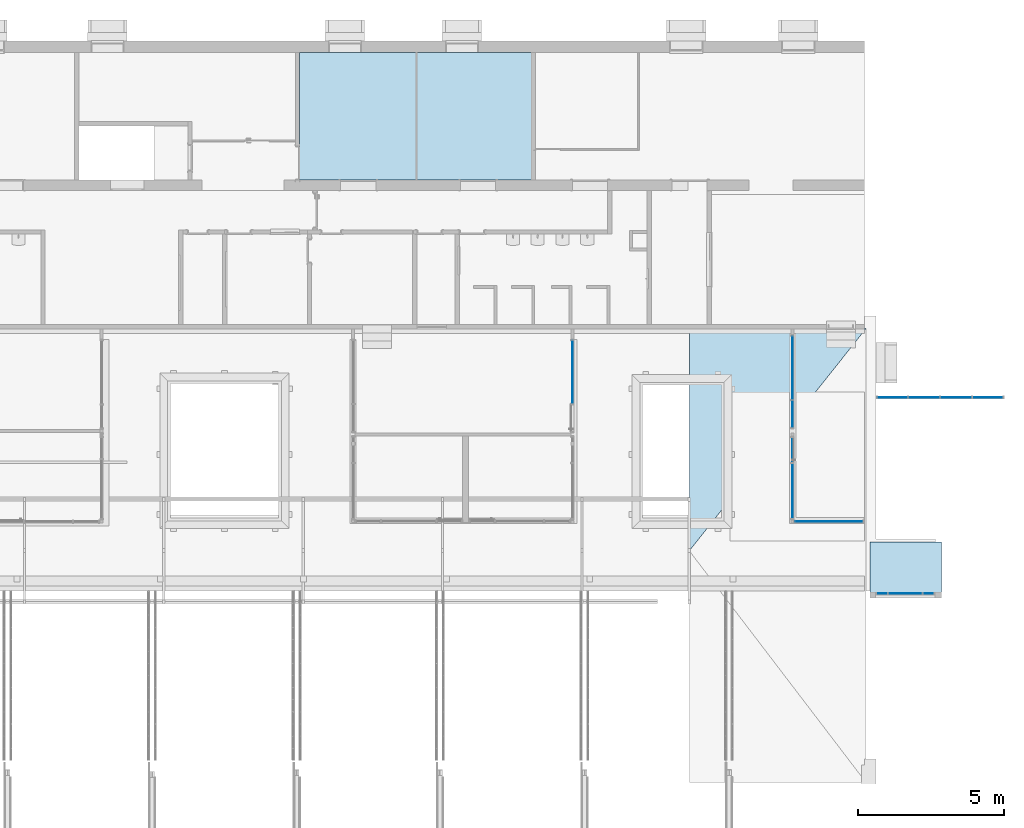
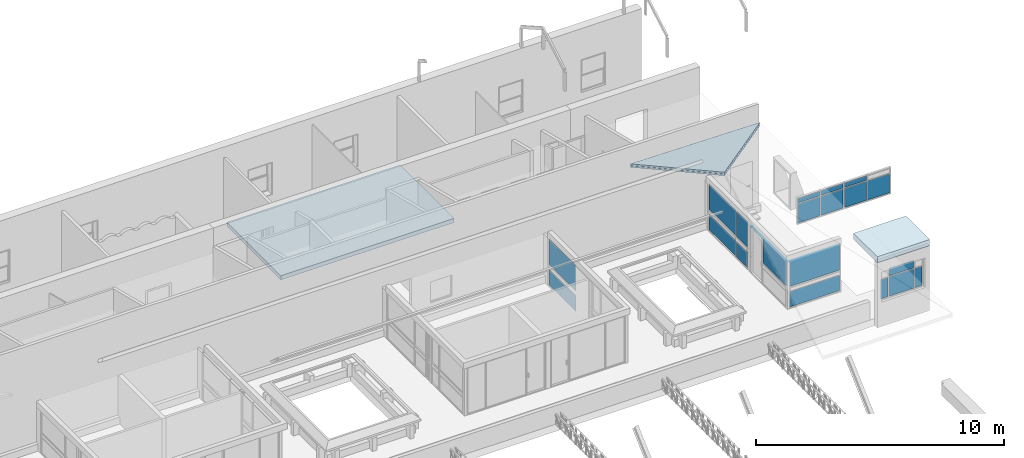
# One storey, part 105 of 153: 22 plates, 3 slabs, 8 elements without a shape of their own.
"""IFC4 building model written with IfcOpenShell, lengths in metres."""

from ifc_helpers import new_model, entity, si_unit, converted_unit, derived_unit, direction, frame, origin, place, context, subcontext, project, spatial, indexed_curve, outline, extrude, source, transform, mapped, material, constituent, constituent_set, type_object, type_shapes, element, aggregate, save


model = new_model("IFC4")

# Units and contexts
model_context = context("Model", 3, precision=1e-05, world=origin(), true_north=direction((6.123031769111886e-17, 1.0)))
body_context = subcontext(model_context, "Body", "Model", "MODEL_VIEW")
ifc_project = project(units=[si_unit("LENGTHUNIT", "METRE"), si_unit("AREAUNIT", "SQUARE_METRE"), si_unit("VOLUMEUNIT", "CUBIC_METRE"), converted_unit("PLANEANGLEUNIT", "DEGREE", entity("IfcRatioMeasure", 0.017453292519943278), si_unit("PLANEANGLEUNIT", "RADIAN"), dimensions=[0, 0, 0, 0, 0, 0, 0]), si_unit("MASSUNIT", "GRAM", prefix="KILO"), derived_unit("MASSDENSITYUNIT", [(si_unit("MASSUNIT", "GRAM", prefix="KILO"), 1), (si_unit("LENGTHUNIT", "METRE"), -3)]), derived_unit("MOMENTOFINERTIAUNIT", [(si_unit("LENGTHUNIT", "METRE"), 4)]), si_unit("TIMEUNIT", "SECOND"), si_unit("FREQUENCYUNIT", "HERTZ"), si_unit("THERMODYNAMICTEMPERATUREUNIT", "DEGREE_CELSIUS"), derived_unit("THERMALTRANSMITTANCEUNIT", [(si_unit("MASSUNIT", "GRAM", prefix="KILO"), 1), (si_unit("THERMODYNAMICTEMPERATUREUNIT", "KELVIN"), -1), (si_unit("TIMEUNIT", "SECOND"), -3)]), derived_unit("VOLUMETRICFLOWRATEUNIT", [(si_unit("LENGTHUNIT", "METRE"), 3), (si_unit("TIMEUNIT", "SECOND"), -1)]), derived_unit("MASSFLOWRATEUNIT", [(si_unit("MASSUNIT", "GRAM", prefix="KILO"), 1), (si_unit("TIMEUNIT", "SECOND"), -1)]), derived_unit("ROTATIONALFREQUENCYUNIT", [(si_unit("TIMEUNIT", "SECOND"), -1)]), si_unit("ELECTRICCURRENTUNIT", "AMPERE"), si_unit("ELECTRICVOLTAGEUNIT", "VOLT"), si_unit("POWERUNIT", "WATT"), si_unit("FORCEUNIT", "NEWTON", prefix="KILO"), si_unit("ILLUMINANCEUNIT", "LUX"), si_unit("LUMINOUSFLUXUNIT", "LUMEN"), si_unit("LUMINOUSINTENSITYUNIT", "CANDELA"), derived_unit("USERDEFINED", [(si_unit("MASSUNIT", "GRAM", prefix="KILO"), -1), (si_unit("LENGTHUNIT", "METRE"), -2), (si_unit("TIMEUNIT", "SECOND"), 3), (si_unit("LUMINOUSFLUXUNIT", "LUMEN"), 1)]), derived_unit("SOUNDPOWERUNIT", [(si_unit("MASSUNIT", "GRAM", prefix="KILO"), 1), (si_unit("LENGTHUNIT", "METRE"), 2), (si_unit("TIMEUNIT", "SECOND"), -3)]), derived_unit("SOUNDPRESSUREUNIT", [(si_unit("MASSUNIT", "GRAM", prefix="KILO"), 1), (si_unit("LENGTHUNIT", "METRE"), -1), (si_unit("TIMEUNIT", "SECOND"), -2)]), derived_unit("LINEARVELOCITYUNIT", [(si_unit("LENGTHUNIT", "METRE"), 1), (si_unit("TIMEUNIT", "SECOND"), -1)]), si_unit("PRESSUREUNIT", "PASCAL"), derived_unit("USERDEFINED", [(si_unit("LENGTHUNIT", "METRE"), -2), (si_unit("MASSUNIT", "GRAM", prefix="KILO"), 1), (si_unit("TIMEUNIT", "SECOND"), -2)]), derived_unit("LINEARFORCEUNIT", [(si_unit("MASSUNIT", "GRAM", prefix="KILO"), 1), (si_unit("LENGTHUNIT", "METRE"), 1), (si_unit("TIMEUNIT", "SECOND"), -2), (si_unit("LENGTHUNIT", "METRE"), -1)]), derived_unit("PLANARFORCEUNIT", [(si_unit("MASSUNIT", "GRAM", prefix="KILO"), 1), (si_unit("LENGTHUNIT", "METRE"), 1), (si_unit("TIMEUNIT", "SECOND"), -2), (si_unit("LENGTHUNIT", "METRE"), -2)])], contexts=[model_context])

# Site, building, storey
site_placement = place(None, origin())
site = spatial("IfcSite", under=ifc_project, at=site_placement, Name="Superficie", CompositionType="ELEMENT")
building_placement = place(site_placement, origin())
building = spatial("IfcBuilding", under=site, at=building_placement, CompositionType="ELEMENT")
storey_placement = place(building_placement, frame((0.0, 0.0, 3.5999999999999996)))
storey = spatial("IfcBuildingStorey", under=building, at=storey_placement, Name="Nivel 1", CompositionType="ELEMENT", Elevation=3.5999999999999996)

# Roof, slab
roof_1_placement = place(storey_placement, frame((20.78679901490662, -3.5841708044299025, 2.8999999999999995)))
roof_1 = element("IfcRoof", 1, at=roof_1_placement, inside=storey, Name="Cubierta básica:Plana tradicional transitable - 30 cm 2", ObjectType="Cubierta básica:Plana tradicional transitable - 30 cm 2", PredefinedType="NOTDEFINED")
ifc_material_1 = material(Name="Cerámica blanca", Category="Cerámica")
ifc_constituent_1 = constituent(ifc_material_1, Name="Cerámica blanca", Category="Cerámica")
ifc_material_2 = material(Name="Hormigón y arena", Category="Hormigón")
ifc_constituent_2 = constituent(ifc_material_2, Name="Hormigón y arena", Category="Hormigón")
ifc_material_3 = material(Name="Aislamiento térmico", Category="Varios")
ifc_constituent_3 = constituent(ifc_material_3, Name="Aislamiento térmico", Category="Varios")
ifc_material_4 = material(Name="Hormigón", Category="Hormigón")
ifc_constituent_4 = constituent(ifc_material_4, Name="Hormigón", Category="Hormigón")
ifc_constituent_set_1 = constituent_set(constituents=[ifc_constituent_1, ifc_constituent_2, ifc_constituent_3, ifc_constituent_4], Name="Cubierta básica:Plana tradicional transitable - 30 cm 2")
slab_type_1 = type_object("IfcSlabType", Name="Cubierta básica:Plana tradicional transitable - 30 cm 2", PredefinedType="ROOF")
slab_1_placement = place(roof_1_placement, origin())
slab_1 = element("IfcSlab", 2, at=slab_1_placement, type_object=slab_type_1, material=ifc_constituent_set_1, Name="Cubierta básica:Plana tradicional transitable - 30 cm 2", ObjectType="Cubierta básica:Plana tradicional transitable - 30 cm 2", PredefinedType="ROOF", context=body_context, shape_type="SweptSolid", body=[
    extrude(outline(indexed_curve([(1.2174999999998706, 0.9599999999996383), (-1.2174999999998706, 0.9599999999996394), (-1.2174999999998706, -0.9599999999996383), (1.2174999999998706, -0.9599999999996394), (1.2174999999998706, 0.9599999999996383)], self_intersect=False)), frame((1.2174999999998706, 0.9599999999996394, 0.0)), (0.0, 0.0, 1.0), 0.02),
    extrude(outline(indexed_curve([(1.2174999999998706, 0.9599999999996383), (-1.2174999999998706, 0.9599999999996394), (-1.2174999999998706, -0.9599999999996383), (1.2174999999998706, -0.9599999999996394), (1.2174999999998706, 0.9599999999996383)], self_intersect=False)), frame((1.2174999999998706, 0.9599999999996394, 0.019999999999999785)), (0.0, 0.0, 1.0), 0.08),
    extrude(outline(indexed_curve([(1.2174999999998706, 0.9599999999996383), (-1.2174999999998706, 0.9599999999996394), (-1.2174999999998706, -0.9599999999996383), (1.2174999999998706, -0.9599999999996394), (1.2174999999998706, 0.9599999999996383)], self_intersect=False)), frame((1.2174999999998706, 0.9599999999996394, 0.1)), (0.0, 0.0, 1.0), 0.08),
    extrude(outline(indexed_curve([(1.2174999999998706, 0.9599999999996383), (-1.2174999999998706, 0.9599999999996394), (-1.2174999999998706, -0.9599999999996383), (1.2174999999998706, -0.9599999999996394), (1.2174999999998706, 0.9599999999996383)], self_intersect=False)), frame((1.2174999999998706, 0.9599999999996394, 0.18000000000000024)), (0.0, 0.0, 1.0), 0.12),
])
aggregate(roof_1, [slab_1])

# Curtain wall, plates
curtain_wall_type = type_object("IfcCurtainWallType", Name="Muro cortina:Muro cortina - simple", PredefinedType="NOTDEFINED")
curtain_wall_1_placement = place(storey_placement, frame((0.0, 0.0, -3.5999999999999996)))
curtain_wall_1 = element("IfcCurtainWall", 3, at=curtain_wall_1_placement, inside=storey, type_object=curtain_wall_type, Name="Muro cortina:Muro cortina - simple", ObjectType="Muro cortina:Muro cortina - simple", PredefinedType="NOTDEFINED")
ifc_material_5 = material(Name="Cristal", Category="Vidrio")
plate_type_1 = type_object("IfcPlateType", Name="Panel de sistema:Acristalado", PredefinedType="CURTAIN_PANEL", material=ifc_material_5)
shared_shape_1 = source(origin(), body_context, "Body", "SweptSolid", [
    extrude(outline(indexed_curve([(-0.01, -0.17499999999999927), (0.01, -0.17499999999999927), (0.01, 0.17499999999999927), (-0.01, 0.17499999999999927), (-0.01, -0.17499999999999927)], self_intersect=False)), frame((0.0, 0.0, 0.0), z_axis=(0.0, 0.0, 1.0), x_axis=(0.0, 1.0, 0.0)), (0.0, 0.0, 1.0), 0.9463856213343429),
])
type_shapes(plate_type_1, [shared_shape_1])
plate_1_placement = place(curtain_wall_1_placement, frame((22.78100195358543, -3.424170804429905, 4.545), z_axis=(0.0, 0.0, 1.0), x_axis=(-1.0, 0.0, 0.0)))
plate_1 = element("IfcPlate", 4, at=plate_1_placement, type_object=plate_type_1, material=ifc_material_5, Name="Panel de sistema:Acristalado", ObjectType="Panel de sistema:Acristalado", PredefinedType="CURTAIN_PANEL", context=body_context, shape_type="MappedRepresentation", body=[
    mapped(shared_shape_1, transform((0.0, 0.0, 0.0), scale=1.0)),
])
plate_2_placement = place(curtain_wall_1_placement, frame((21.196001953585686, -3.4241708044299, 4.545), z_axis=(0.0, 0.0, 1.0), x_axis=(-1.0, 0.0, 0.0)))
plate_2 = element("IfcPlate", 5, at=plate_2_placement, type_object=plate_type_1, material=ifc_material_5, Name="Panel de sistema:Acristalado", ObjectType="Panel de sistema:Acristalado", PredefinedType="CURTAIN_PANEL", context=body_context, shape_type="MappedRepresentation", body=[
    mapped(shared_shape_1, transform((0.0, 0.0, 0.0), scale=1.0)),
])
plate_type_2 = type_object("IfcPlateType", Name="Panel de sistema:Acristalado", PredefinedType="CURTAIN_PANEL", material=ifc_material_5)
shared_shape_2 = source(origin(), body_context, "Body", "SweptSolid", [
    extrude(outline(indexed_curve([(-0.01, -0.5674999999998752), (0.01, -0.5674999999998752), (0.01, 0.5674999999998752), (-0.01, 0.5674999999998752), (-0.01, -0.5674999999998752)], self_intersect=False)), frame((0.0, 0.0, 0.0), z_axis=(0.0, 0.0, 1.0), x_axis=(0.0, 1.0, 0.0)), (0.0, 0.0, 1.0), 0.9463856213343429),
])
type_shapes(plate_type_2, [shared_shape_2])
plate_3_placement = place(curtain_wall_1_placement, frame((21.98850195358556, -3.424170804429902, 4.545), z_axis=(0.0, 0.0, 1.0), x_axis=(-1.0, 0.0, 0.0)))
plate_3 = element("IfcPlate", 6, at=plate_3_placement, type_object=plate_type_2, material=ifc_material_5, Name="Panel de sistema:Acristalado", ObjectType="Panel de sistema:Acristalado", PredefinedType="CURTAIN_PANEL", context=body_context, shape_type="MappedRepresentation", body=[
    mapped(shared_shape_2, transform((0.0, 0.0, 0.0), scale=1.0)),
])
plate_type_3 = type_object("IfcPlateType", Name="Panel de sistema:Acristalado", PredefinedType="CURTAIN_PANEL", material=ifc_material_5)
shared_shape_3 = source(origin(), body_context, "Body", "SweptSolid", [
    extrude(outline(indexed_curve([(-0.01, -0.5674999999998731), (0.01, -0.5674999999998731), (0.01, 0.5674999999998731), (-0.01, 0.5674999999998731), (-0.01, -0.5674999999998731)], self_intersect=False)), frame((0.0, 0.0, 0.0), z_axis=(0.0, 0.0, 1.0), x_axis=(0.0, 1.0, 0.0)), (0.0, 0.0, 1.0), 0.3750000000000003),
])
type_shapes(plate_type_3, [shared_shape_3])
plate_4_placement = place(curtain_wall_1_placement, frame((21.98850195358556, -3.424170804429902, 5.541385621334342), z_axis=(0.0, 0.0, 1.0), x_axis=(-1.0, 0.0, 0.0)))
plate_4 = element("IfcPlate", 7, at=plate_4_placement, type_object=plate_type_3, material=ifc_material_5, Name="Panel de sistema:Acristalado", ObjectType="Panel de sistema:Acristalado", PredefinedType="CURTAIN_PANEL", context=body_context, shape_type="MappedRepresentation", body=[
    mapped(shared_shape_3, transform((0.0, 0.0, 0.0), scale=1.0)),
])
aggregate(curtain_wall_1, [plate_1, plate_3, plate_2, plate_4])

curtain_wall_2_placement = place(storey_placement, frame((0.0, 0.0, -3.5999999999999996)))
curtain_wall_2 = element("IfcCurtainWall", 8, at=curtain_wall_2_placement, inside=storey, type_object=curtain_wall_type, Name="Muro cortina:Muro cortina - simple", ObjectType="Muro cortina:Muro cortina - simple", PredefinedType="NOTDEFINED")
plate_type_4 = type_object("IfcPlateType", Name="Panel de sistema:Acristalado", PredefinedType="CURTAIN_PANEL", material=ifc_material_5)
shared_shape_4 = source(origin(), body_context, "Body", "SweptSolid", [
    extrude(outline(indexed_curve([(-0.01, -1.1475000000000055), (0.01, -1.1475000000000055), (0.01, 1.1475000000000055), (-0.01, 1.1475000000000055), (-0.01, -1.1475000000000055)], self_intersect=False)), frame((0.0, 0.0, 0.0), z_axis=(0.0, 0.0, 1.0), x_axis=(0.0, 1.0, 0.0)), (0.0, 0.0, 1.0), 0.7600000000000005),
])
type_shapes(plate_type_4, [shared_shape_4])
plate_5_placement = place(curtain_wall_2_placement, frame((19.374299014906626, -0.963606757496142, 3.6449999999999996)))
plate_5 = element("IfcPlate", 9, at=plate_5_placement, type_object=plate_type_4, material=ifc_material_5, Name="Panel de sistema:Acristalado", ObjectType="Panel de sistema:Acristalado", PredefinedType="CURTAIN_PANEL", context=body_context, shape_type="MappedRepresentation", body=[
    mapped(shared_shape_4, transform((0.0, 0.0, 0.0), scale=1.0)),
])
plate_type_5 = type_object("IfcPlateType", Name="Panel de sistema:Acristalado", PredefinedType="CURTAIN_PANEL", material=ifc_material_5)
shared_shape_5 = source(origin(), body_context, "Body", "SweptSolid", [
    extrude(outline(indexed_curve([(-0.01, -1.1475000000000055), (0.01, -1.1475000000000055), (0.01, 1.1475000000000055), (-0.01, 1.1475000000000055), (-0.01, -1.1475000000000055)], self_intersect=False)), frame((0.0, 0.0, 0.0), z_axis=(0.0, 0.0, 1.0), x_axis=(0.0, 1.0, 0.0)), (0.0, 0.0, 1.0), 1.2249999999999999),
])
type_shapes(plate_type_5, [shared_shape_5])
plate_6_placement = place(curtain_wall_2_placement, frame((19.374299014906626, -0.963606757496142, 4.654999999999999)))
plate_6 = element("IfcPlate", 10, at=plate_6_placement, type_object=plate_type_5, material=ifc_material_5, Name="Panel de sistema:Acristalado", ObjectType="Panel de sistema:Acristalado", PredefinedType="CURTAIN_PANEL", context=body_context, shape_type="MappedRepresentation", body=[
    mapped(shared_shape_5, transform((0.0, 0.0, 0.0), scale=1.0)),
])
plate_type_6 = type_object("IfcPlateType", Name="Panel de sistema:Acristalado", PredefinedType="CURTAIN_PANEL", material=ifc_material_5)
shared_shape_6 = source(origin(), body_context, "Body", "SweptSolid", [
    extrude(outline(indexed_curve([(-0.01, -1.1475000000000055), (0.01, -1.1475000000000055), (0.01, 1.1475000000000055), (-0.01, 1.1475000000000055), (-0.01, -1.1475000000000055)], self_intersect=False)), frame((0.0, 0.0, 0.0), z_axis=(0.0, 0.0, 1.0), x_axis=(0.0, 1.0, 0.0)), (0.0, 0.0, 1.0), 0.019999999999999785),
])
type_shapes(plate_type_6, [shared_shape_6])
plate_7_placement = place(curtain_wall_2_placement, frame((19.374299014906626, -0.963606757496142, 5.879999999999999)))
plate_7 = element("IfcPlate", 11, at=plate_7_placement, type_object=plate_type_6, material=ifc_material_5, Name="Panel de sistema:Acristalado", ObjectType="Panel de sistema:Acristalado", PredefinedType="CURTAIN_PANEL", context=body_context, shape_type="MappedRepresentation", body=[
    mapped(shared_shape_6, transform((0.0, 0.0, 0.0), scale=1.0)),
])
aggregate(curtain_wall_2, [plate_5, plate_6, plate_7])

curtain_wall_3_placement = place(storey_placement, frame((0.0, 0.0, -3.5999999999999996)))
curtain_wall_3 = element("IfcCurtainWall", 12, at=curtain_wall_3_placement, inside=storey, type_object=curtain_wall_type, Name="Muro cortina:Muro cortina - simple", ObjectType="Muro cortina:Muro cortina - simple", PredefinedType="NOTDEFINED")
plate_type_7 = type_object("IfcPlateType", Name="Panel de sistema:Acristalado", PredefinedType="CURTAIN_PANEL", material=ifc_material_5)
shared_shape_7 = source(origin(), body_context, "Body", "SweptSolid", [
    extrude(outline(indexed_curve([(-0.01, -0.9475000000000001), (0.01, -0.9475000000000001), (0.01, 0.9475000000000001), (-0.01, 0.9475000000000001), (-0.01, -0.9475000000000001)], self_intersect=False)), frame((0.0, 0.0, 0.0), z_axis=(0.0, 0.0, 1.0), x_axis=(0.0, 1.0, 0.0)), (0.0, 0.0, 1.0), 1.2249999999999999),
])
type_shapes(plate_type_7, [shared_shape_7])
plate_8_placement = place(curtain_wall_3_placement, frame((18.12679901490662, 0.06273284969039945, 4.654999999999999), z_axis=(0.0, 0.0, 1.0), x_axis=(0.0, 1.0, 0.0)))
plate_8 = element("IfcPlate", 13, at=plate_8_placement, type_object=plate_type_7, material=ifc_material_5, Name="Panel de sistema:Acristalado", ObjectType="Panel de sistema:Acristalado", PredefinedType="CURTAIN_PANEL", context=body_context, shape_type="MappedRepresentation", body=[
    mapped(shared_shape_7, transform((0.0, 0.0, 0.0), scale=1.0)),
])
plate_type_8 = type_object("IfcPlateType", Name="Panel de sistema:Acristalado", PredefinedType="CURTAIN_PANEL", material=ifc_material_5)
shared_shape_8 = source(origin(), body_context, "Body", "SweptSolid", [
    extrude(outline(indexed_curve([(-0.009999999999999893, -1.5716666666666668), (0.009999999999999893, -1.5716666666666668), (0.009999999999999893, 0.3483333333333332), (0.009999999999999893, 1.2233333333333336), (-0.009999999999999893, 1.2233333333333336), (-0.009999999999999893, 0.3483333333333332), (-0.009999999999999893, -1.5716666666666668)], self_intersect=False)), frame((0.1741666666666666, -0.01, 0.009999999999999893), z_axis=(0.0, 1.0, 0.0), x_axis=(0.0, 0.0, 1.0)), (0.0, 0.0, 1.0), 0.02),
])
type_shapes(plate_type_8, [shared_shape_8])
plate_9_placement = place(curtain_wall_3_placement, frame((18.12679901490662, 0.5127328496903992, 5.879999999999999), z_axis=(0.0, 0.0, 1.0), x_axis=(0.0, 1.0, 0.0)))
plate_9 = element("IfcPlate", 14, at=plate_9_placement, type_object=plate_type_8, material=ifc_material_5, Name="Panel de sistema:Acristalado", ObjectType="Panel de sistema:Acristalado", PredefinedType="CURTAIN_PANEL", context=body_context, shape_type="MappedRepresentation", body=[
    mapped(shared_shape_8, transform((0.0, 0.0, 0.0), scale=1.0)),
])
aggregate(curtain_wall_3, [plate_8, plate_9])

curtain_wall_4_placement = place(storey_placement, frame((0.0, 0.0, -3.5999999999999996)))
curtain_wall_4 = element("IfcCurtainWall", 15, at=curtain_wall_4_placement, inside=storey, type_object=curtain_wall_type, Name="Muro cortina:Muro cortina - simple", ObjectType="Muro cortina:Muro cortina - simple", PredefinedType="NOTDEFINED")
plate_type_9 = type_object("IfcPlateType", Name="Panel de sistema:Acristalado", PredefinedType="CURTAIN_PANEL", material=ifc_material_5)
shared_shape_9 = source(origin(), body_context, "Body", "SweptSolid", [
    extrude(outline(indexed_curve([(-0.01, -0.45499999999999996), (0.01, -0.45499999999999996), (0.01, 0.45499999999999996), (-0.01, 0.45499999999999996), (-0.01, -0.45499999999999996)], self_intersect=False)), frame((0.0, 0.0, 0.0), z_axis=(0.0, 0.0, 1.0), x_axis=(0.0, 1.0, 0.0)), (0.0, 0.0, 1.0), 0.7600000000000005),
])
type_shapes(plate_type_9, [shared_shape_9])
plate_10_placement = place(curtain_wall_4_placement, frame((18.126799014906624, 2.715232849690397, 3.6449999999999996), z_axis=(0.0, 0.0, 1.0), x_axis=(0.0, 1.0, 0.0)))
plate_10 = element("IfcPlate", 16, at=plate_10_placement, type_object=plate_type_9, material=ifc_material_5, Name="Panel de sistema:Acristalado", ObjectType="Panel de sistema:Acristalado", PredefinedType="CURTAIN_PANEL", context=body_context, shape_type="MappedRepresentation", body=[
    mapped(shared_shape_9, transform((0.0, 0.0, 0.0), scale=1.0)),
])
plate_type_10 = type_object("IfcPlateType", Name="Panel de sistema:Acristalado", PredefinedType="CURTAIN_PANEL", material=ifc_material_5)
shared_shape_10 = source(origin(), body_context, "Body", "SweptSolid", [
    extrude(outline(indexed_curve([(-0.01, -1.0780801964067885), (0.01, -1.0780801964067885), (0.01, 1.0780801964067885), (-0.01, 1.0780801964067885), (-0.01, -1.0780801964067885)], self_intersect=False)), frame((0.0, 0.0, 0.0), z_axis=(0.0, 0.0, 1.0), x_axis=(0.0, 1.0, 0.0)), (0.0, 0.0, 1.0), 0.7600000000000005),
])
type_shapes(plate_type_10, [shared_shape_10])
plate_11_placement = place(curtain_wall_4_placement, frame((18.126799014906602, 4.298313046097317, 3.6449999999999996), z_axis=(0.0, 0.0, 1.0), x_axis=(0.0, 1.0, 0.0)))
plate_11 = element("IfcPlate", 17, at=plate_11_placement, type_object=plate_type_10, material=ifc_material_5, Name="Panel de sistema:Acristalado", ObjectType="Panel de sistema:Acristalado", PredefinedType="CURTAIN_PANEL", context=body_context, shape_type="MappedRepresentation", body=[
    mapped(shared_shape_10, transform((0.0, 0.0, 0.0), scale=1.0)),
])
plate_type_11 = type_object("IfcPlateType", Name="Panel de sistema:Acristalado", PredefinedType="CURTAIN_PANEL", material=ifc_material_5)
shared_shape_11 = source(origin(), body_context, "Body", "SweptSolid", [
    extrude(outline(indexed_curve([(-0.01, -0.45499999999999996), (0.01, -0.45499999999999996), (0.01, 0.45499999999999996), (-0.01, 0.45499999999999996), (-0.01, -0.45499999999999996)], self_intersect=False)), frame((0.0, 0.0, 0.0), z_axis=(0.0, 0.0, 1.0), x_axis=(0.0, 1.0, 0.0)), (0.0, 0.0, 1.0), 1.2449999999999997),
])
type_shapes(plate_type_11, [shared_shape_11])
plate_12_placement = place(curtain_wall_4_placement, frame((18.126799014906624, 2.7152328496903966, 4.654999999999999), z_axis=(0.0, 0.0, 1.0), x_axis=(0.0, 1.0, 0.0)))
plate_12 = element("IfcPlate", 18, at=plate_12_placement, type_object=plate_type_11, material=ifc_material_5, Name="Panel de sistema:Acristalado", ObjectType="Panel de sistema:Acristalado", PredefinedType="CURTAIN_PANEL", context=body_context, shape_type="MappedRepresentation", body=[
    mapped(shared_shape_11, transform((0.0, 0.0, 0.0), scale=1.0)),
])
plate_type_12 = type_object("IfcPlateType", Name="Panel de sistema:Acristalado", PredefinedType="CURTAIN_PANEL", material=ifc_material_5)
shared_shape_12 = source(origin(), body_context, "Body", "SweptSolid", [
    extrude(outline(indexed_curve([(-0.01, -1.078080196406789), (0.01, -1.078080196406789), (0.01, 1.078080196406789), (-0.01, 1.078080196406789), (-0.01, -1.078080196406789)], self_intersect=False)), frame((0.0, 0.0, 0.0), z_axis=(0.0, 0.0, 1.0), x_axis=(0.0, 1.0, 0.0)), (0.0, 0.0, 1.0), 1.2449999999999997),
])
type_shapes(plate_type_12, [shared_shape_12])
plate_13_placement = place(curtain_wall_4_placement, frame((18.126799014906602, 4.298313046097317, 4.654999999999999), z_axis=(0.0, 0.0, 1.0), x_axis=(0.0, 1.0, 0.0)))
plate_13 = element("IfcPlate", 19, at=plate_13_placement, type_object=plate_type_12, material=ifc_material_5, Name="Panel de sistema:Acristalado", ObjectType="Panel de sistema:Acristalado", PredefinedType="CURTAIN_PANEL", context=body_context, shape_type="MappedRepresentation", body=[
    mapped(shared_shape_12, transform((0.0, 0.0, 0.0), scale=1.0)),
])
aggregate(curtain_wall_4, [plate_10, plate_11, plate_12, plate_13])

curtain_wall_5_placement = place(storey_placement, frame((0.0, 0.0, -3.5999999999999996)))
curtain_wall_5 = element("IfcCurtainWall", 20, at=curtain_wall_5_placement, inside=storey, type_object=curtain_wall_type, Name="Muro cortina:Muro cortina - simple", ObjectType="Muro cortina:Muro cortina - simple", PredefinedType="NOTDEFINED")
plate_type_13 = type_object("IfcPlateType", Name="Panel de sistema:Acristalado", PredefinedType="CURTAIN_PANEL", material=ifc_material_5)
shared_shape_13 = source(origin(), body_context, "Body", "SweptSolid", [
    extrude(outline(indexed_curve([(-0.01, -1.0721550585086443), (0.01, -1.0721550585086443), (0.01, 1.0721550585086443), (-0.01, 1.0721550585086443), (-0.01, -1.0721550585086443)], self_intersect=False)), frame((0.0, 0.0, 0.0), z_axis=(0.0, 0.0, 1.0), x_axis=(0.0, 1.0, 0.0)), (0.0, 0.0, 1.0), 0.7600000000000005),
])
type_shapes(plate_type_13, [shared_shape_13])
plate_14_placement = place(curtain_wall_5_placement, frame((10.596799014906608, 4.1542381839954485, 3.6449999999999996), z_axis=(0.0, 0.0, 1.0), x_axis=(0.0, 1.0, 0.0)))
plate_14 = element("IfcPlate", 21, at=plate_14_placement, type_object=plate_type_13, material=ifc_material_5, Name="Panel de sistema:Acristalado", ObjectType="Panel de sistema:Acristalado", PredefinedType="CURTAIN_PANEL", context=body_context, shape_type="MappedRepresentation", body=[
    mapped(shared_shape_13, transform((0.0, 0.0, 0.0), scale=1.0)),
])
plate_type_14 = type_object("IfcPlateType", Name="Panel de sistema:Acristalado", PredefinedType="CURTAIN_PANEL", material=ifc_material_5)
shared_shape_14 = source(origin(), body_context, "Body", "SweptSolid", [
    extrude(outline(indexed_curve([(-0.01, -1.0721550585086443), (0.01, -1.0721550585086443), (0.01, 1.0721550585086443), (-0.01, 1.0721550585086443), (-0.01, -1.0721550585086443)], self_intersect=False)), frame((0.0, 0.0, 0.0), z_axis=(0.0, 0.0, 1.0), x_axis=(0.0, 1.0, 0.0)), (0.0, 0.0, 1.0), 1.2449999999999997),
])
type_shapes(plate_type_14, [shared_shape_14])
plate_15_placement = place(curtain_wall_5_placement, frame((10.596799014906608, 4.1542381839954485, 4.654999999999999), z_axis=(0.0, 0.0, 1.0), x_axis=(0.0, 1.0, 0.0)))
plate_15 = element("IfcPlate", 22, at=plate_15_placement, type_object=plate_type_14, material=ifc_material_5, Name="Panel de sistema:Acristalado", ObjectType="Panel de sistema:Acristalado", PredefinedType="CURTAIN_PANEL", context=body_context, shape_type="MappedRepresentation", body=[
    mapped(shared_shape_14, transform((0.0, 0.0, 0.0), scale=1.0)),
])
aggregate(curtain_wall_5, [plate_14, plate_15])

# Slab
ifc_material_6 = material(Name="Suelos por defecto", Category="Genérico")
slab_type_2 = type_object("IfcSlabType", Name="Suelo:Por defecto - 20 cm 2", PredefinedType="FLOOR", material=ifc_material_6)
slab_2_placement = place(storey_placement, origin())
element("IfcSlab", 23, at=slab_2_placement, inside=storey, type_object=slab_type_2, material=ifc_material_6, Name="Suelo:Por defecto - 20 cm 2", ObjectType="Suelo:Por defecto - 20 cm 2", PredefinedType="FLOOR", context=body_context, shape_type="SweptSolid", body=[
    extrude(outline(indexed_curve([(-2.177499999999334, -4.03789853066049), (2.177499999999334, -4.03789853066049), (2.177499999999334, 4.03789853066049), (-2.177499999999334, 4.03789853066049), (-2.177499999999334, -4.03789853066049)], self_intersect=False)), frame((5.29890048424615, 12.908329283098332, 0.4199999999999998), z_axis=(0.0, 0.0, -1.0), x_axis=(0.0, 1.0, 0.0)), (0.0, 0.0, 1.0), 0.2),
])

# Roof, slab
roof_2_placement = place(storey_placement, frame((14.597348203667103, -9.894451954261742, 4.107718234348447)))
roof_2 = element("IfcRoof", 24, at=roof_2_placement, inside=storey, Name="Cubierta básica:Plana tipo deck - 16 cm", ObjectType="Cubierta básica:Plana tipo deck - 16 cm", PredefinedType="NOTDEFINED")
ifc_constituent_5 = constituent(ifc_material_3, Name="Aislamiento térmico", Category="Varios")
ifc_material_7 = material(Name="Metal - Chapado (1)", Category="Metal")
ifc_constituent_6 = constituent(ifc_material_7, Name="Metal - Chapado (1)", Category="Metal")
ifc_constituent_set_2 = constituent_set(constituents=[ifc_constituent_5, ifc_constituent_6], Name="Cubierta básica:Plana tipo deck - 16 cm")
slab_type_3 = type_object("IfcSlabType", Name="Cubierta básica:Plana tipo deck - 16 cm", PredefinedType="ROOF")
slab_3_placement = place(roof_2_placement, origin())
slab_3 = element("IfcSlab", 25, at=slab_3_placement, type_object=slab_type_3, material=ifc_constituent_set_2, Name="Cubierta básica:Plana tipo deck - 16 cm", ObjectType="Cubierta básica:Plana tipo deck - 16 cm", PredefinedType="ROOF", context=body_context, shape_type="SweptSolid", body=[
    extrude(outline(indexed_curve([(3.0254297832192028, 4.363071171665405), (-3.025429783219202, 4.329248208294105), (-3.0254297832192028, -4.363071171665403), (3.0254297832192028, 4.363071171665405)], self_intersect=False)), frame((3.0252745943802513, 11.735139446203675, 2.1350000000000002), z_axis=(0.010128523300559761, 0.48316040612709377, 0.8754732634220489), x_axis=(0.9999487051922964, -0.004893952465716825, -0.008867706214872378)), (-0.008867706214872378, -0.4831851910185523, 0.8754732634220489), 0.08),
    extrude(outline(indexed_curve([(3.0254297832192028, 4.363071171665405), (-3.025429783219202, 4.329248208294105), (-3.0254297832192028, -4.363071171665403), (3.0254297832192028, 4.363071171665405)], self_intersect=False)), frame((3.0252745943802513, 11.735139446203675, 2.2263791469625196), z_axis=(0.010128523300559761, 0.48316040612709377, 0.8754732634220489), x_axis=(0.9999487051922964, -0.004893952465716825, -0.008867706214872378)), (-0.008867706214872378, -0.4831851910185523, 0.8754732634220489), 0.08),
])
aggregate(roof_2, [slab_3])

# Curtain wall, plates
curtain_wall_6_placement = place(storey_placement, frame((0.0, 0.0, -3.5999999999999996)))
curtain_wall_6 = element("IfcCurtainWall", 26, at=curtain_wall_6_placement, inside=storey, type_object=curtain_wall_type, Name="Muro cortina:Muro cortina - simple", ObjectType="Muro cortina:Muro cortina - simple", PredefinedType="NOTDEFINED")
plate_type_15 = type_object("IfcPlateType", Name="Panel de sistema:Acristalado", PredefinedType="CURTAIN_PANEL", material=ifc_material_5)
shared_shape_15 = source(origin(), body_context, "Body", "SweptSolid", [
    extrude(outline(indexed_curve([(-0.01, -0.5091109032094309), (0.01, -0.5091109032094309), (0.01, 0.5091109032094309), (-0.01, 0.5091109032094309), (-0.01, -0.5091109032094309)], self_intersect=False)), frame((0.0, 0.0, 0.0), z_axis=(0.0, 0.0, 1.0), x_axis=(0.0, 1.0, 0.0)), (0.0, 0.0, 1.0), 0.9357145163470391),
])
type_shapes(plate_type_15, [shared_shape_15])
plate_16_placement = place(curtain_wall_6_placement, frame((21.55456004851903, 3.2908292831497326, 4.21)))
plate_16 = element("IfcPlate", 27, at=plate_16_placement, type_object=plate_type_15, material=ifc_material_5, Name="Panel de sistema:Acristalado", ObjectType="Panel de sistema:Acristalado", PredefinedType="CURTAIN_PANEL", context=body_context, shape_type="MappedRepresentation", body=[
    mapped(shared_shape_15, transform((0.0, 0.0, 0.0), scale=1.0)),
])
plate_17_placement = place(curtain_wall_6_placement, frame((24.8092254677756, 3.290829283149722, 4.21)))
plate_17 = element("IfcPlate", 28, at=plate_17_placement, type_object=plate_type_15, material=ifc_material_5, Name="Panel de sistema:Acristalado", ObjectType="Panel de sistema:Acristalado", PredefinedType="CURTAIN_PANEL", context=body_context, shape_type="MappedRepresentation", body=[
    mapped(shared_shape_15, transform((0.0, 0.0, 0.0), scale=1.0)),
])
plate_type_16 = type_object("IfcPlateType", Name="Panel de sistema:Acristalado", PredefinedType="CURTAIN_PANEL", material=ifc_material_5)
shared_shape_16 = source(origin(), body_context, "Body", "SweptSolid", [
    extrude(outline(indexed_curve([(-0.01, -0.5216109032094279), (0.01, -0.5216109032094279), (0.01, 0.5216109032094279), (-0.01, 0.5216109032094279), (-0.01, -0.5216109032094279)], self_intersect=False)), frame((0.0, 0.0, 0.0), z_axis=(0.0, 0.0, 1.0), x_axis=(0.0, 1.0, 0.0)), (0.0, 0.0, 1.0), 0.9357145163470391),
])
type_shapes(plate_type_16, [shared_shape_16])
plate_18_placement = place(curtain_wall_6_placement, frame((22.635281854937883, 3.290829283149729, 4.21)))
plate_18 = element("IfcPlate", 29, at=plate_18_placement, type_object=plate_type_16, material=ifc_material_5, Name="Panel de sistema:Acristalado", ObjectType="Panel de sistema:Acristalado", PredefinedType="CURTAIN_PANEL", context=body_context, shape_type="MappedRepresentation", body=[
    mapped(shared_shape_16, transform((0.0, 0.0, 0.0), scale=1.0)),
])
plate_19_placement = place(curtain_wall_6_placement, frame((23.72850366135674, 3.2908292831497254, 4.21)))
plate_19 = element("IfcPlate", 30, at=plate_19_placement, type_object=plate_type_16, material=ifc_material_5, Name="Panel de sistema:Acristalado", ObjectType="Panel de sistema:Acristalado", PredefinedType="CURTAIN_PANEL", context=body_context, shape_type="MappedRepresentation", body=[
    mapped(shared_shape_16, transform((0.0, 0.0, 0.0), scale=1.0)),
])
plate_type_17 = type_object("IfcPlateType", Name="Panel de sistema:Acristalado", PredefinedType="CURTAIN_PANEL", material=ifc_material_5)
shared_shape_17 = source(origin(), body_context, "Body", "SweptSolid", [
    extrude(outline(indexed_curve([(-0.01, -0.5091109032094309), (0.01, -0.5091109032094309), (0.01, 0.5091109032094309), (-0.01, 0.5091109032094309), (-0.01, -0.5091109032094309)], self_intersect=False)), frame((0.0, 0.0, 0.0), z_axis=(0.0, 0.0, 1.0), x_axis=(0.0, 1.0, 0.0)), (0.0, 0.0, 1.0), 0.22500000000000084),
])
type_shapes(plate_type_17, [shared_shape_17])
plate_20_placement = place(curtain_wall_6_placement, frame((21.55456004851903, 3.2908292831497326, 5.195714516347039)))
plate_20 = element("IfcPlate", 31, at=plate_20_placement, type_object=plate_type_17, material=ifc_material_5, Name="Panel de sistema:Acristalado", ObjectType="Panel de sistema:Acristalado", PredefinedType="CURTAIN_PANEL", context=body_context, shape_type="MappedRepresentation", body=[
    mapped(shared_shape_17, transform((0.0, 0.0, 0.0), scale=1.0)),
])
plate_type_18 = type_object("IfcPlateType", Name="Panel de sistema:Acristalado", PredefinedType="CURTAIN_PANEL", material=ifc_material_5)
shared_shape_18 = source(origin(), body_context, "Body", "SweptSolid", [
    extrude(outline(indexed_curve([(-0.01, -0.5216109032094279), (0.01, -0.5216109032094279), (0.01, 0.5216109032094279), (-0.01, 0.5216109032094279), (-0.01, -0.5216109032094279)], self_intersect=False)), frame((0.0, 0.0, 0.0), z_axis=(0.0, 0.0, 1.0), x_axis=(0.0, 1.0, 0.0)), (0.0, 0.0, 1.0), 0.22500000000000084),
])
type_shapes(plate_type_18, [shared_shape_18])
plate_21_placement = place(curtain_wall_6_placement, frame((22.635281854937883, 3.290829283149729, 5.195714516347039)))
plate_21 = element("IfcPlate", 32, at=plate_21_placement, type_object=plate_type_18, material=ifc_material_5, Name="Panel de sistema:Acristalado", ObjectType="Panel de sistema:Acristalado", PredefinedType="CURTAIN_PANEL", context=body_context, shape_type="MappedRepresentation", body=[
    mapped(shared_shape_18, transform((0.0, 0.0, 0.0), scale=1.0)),
])
plate_22_placement = place(curtain_wall_6_placement, frame((23.72850366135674, 3.2908292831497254, 5.195714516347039)))
plate_22 = element("IfcPlate", 33, at=plate_22_placement, type_object=plate_type_18, material=ifc_material_5, Name="Panel de sistema:Acristalado", ObjectType="Panel de sistema:Acristalado", PredefinedType="CURTAIN_PANEL", context=body_context, shape_type="MappedRepresentation", body=[
    mapped(shared_shape_18, transform((0.0, 0.0, 0.0), scale=1.0)),
])
aggregate(curtain_wall_6, [plate_16, plate_18, plate_19, plate_17, plate_20, plate_21, plate_22])

save(model, "model.ifc")
